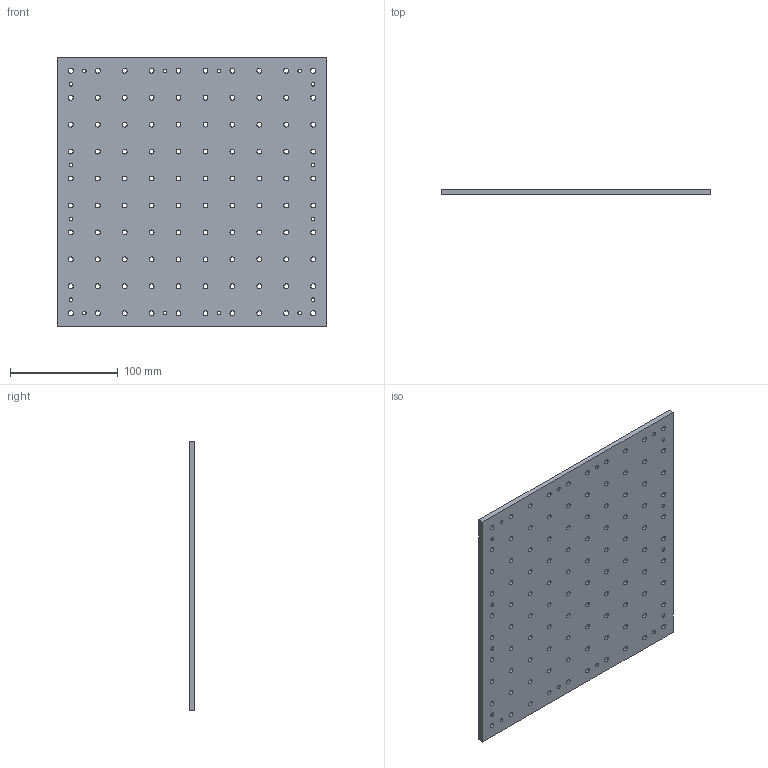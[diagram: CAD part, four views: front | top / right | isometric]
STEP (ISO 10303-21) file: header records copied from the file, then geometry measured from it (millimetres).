
FILE_DESCRIPTION(/* description */ (''),/* implementation_level */ '2;1');
FILE_NAME(/* name */ 'c-10x10-complete-5mm.stp',/* time_stamp */ '2026-04-29T11:41:03+08:00',/* author */ ('32769'),/* organization */ (''),/* preprocessor_version */ 'ST-DEVELOPER v20',/* originating_system */ 'Autodesk Inventor 2025',/* authorisation */ '');
FILE_SCHEMA (('AUTOMOTIVE_DESIGN { 1 0 10303 214 3 1 1 }'));
Length unit declared in the file: millimetre
Products named in the file (1): c-10x10-complete-5mm
Bounding box: 250 x 5 x 250 mm (x, y, z)
Volume: 303863.6 mm3; surface area: 134443.4 mm2
Topology: 1 solids, 1 shells, 122 faces, 360 edges, 241 vertices
Faces by surface type: cylinder 116, plane 6
Full cylindrical faces by diameter (mm): 3.3 x16, 4.5 x100
Entity records: 4734 total; most frequent: DIRECTION 838, CARTESIAN_POINT 724, ORIENTED_EDGE 720, EDGE_CURVE 360, AXIS2_PLACEMENT_3D 355, EDGE_LOOP 354, VERTEX_POINT 240, FACE_BOUND 232
